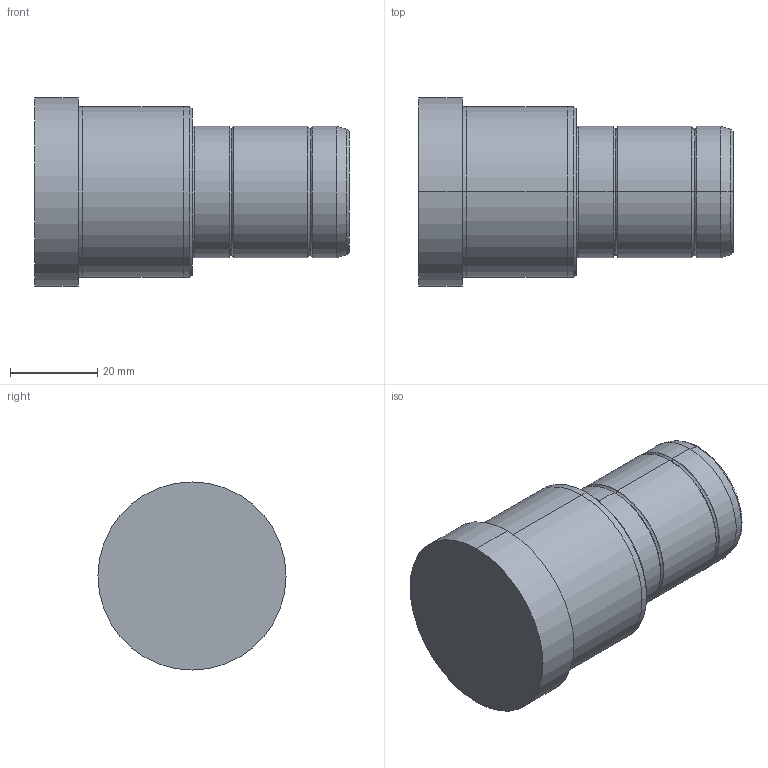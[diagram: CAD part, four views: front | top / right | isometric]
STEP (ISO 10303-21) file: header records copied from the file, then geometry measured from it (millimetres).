
FILE_DESCRIPTION( ( 'STEP AP203' ), '1' );
FILE_NAME( 'C:/Projects/D02 - 30x36x36.step', '2002-12-31T22:36:22', ( ' ' ), ( ' ' ), 'XStep 1.0', ' ', ' ' );
FILE_SCHEMA( ( 'CONFIG_CONTROL_DESIGN' ) );
Length unit declared in the file: metre
Products named in the file (1): 1
Bounding box: 72 x 43 x 43 mm (x, y, z)
Volume: 70851.8 mm3; surface area: 10790.7 mm2
Topology: 1 solids, 1 shells, 36 faces, 70 edges, 40 vertices
Faces by surface type: bspline 18, revolution 18
Entity records: 1127 total; most frequent: CARTESIAN_POINT 417, ORIENTED_EDGE 140, DIRECTION 118, EDGE_CURVE 70, AXIS2_PLACEMENT_3D 41, EDGE_LOOP 40, VERTEX_POINT 40, CIRCLE 40
